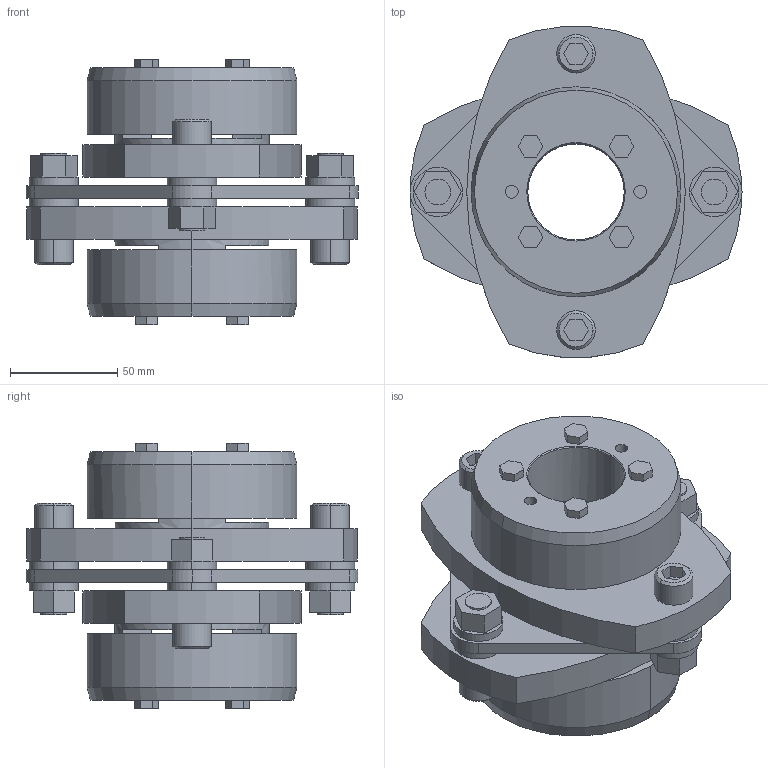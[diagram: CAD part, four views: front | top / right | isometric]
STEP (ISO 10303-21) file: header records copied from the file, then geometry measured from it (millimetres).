
FILE_DESCRIPTION((''),'2;1');
FILE_NAME('LCS-155T7-45×45.stp','2011-09-08T10:39:23',(''),(''),'AutoCAD STEP 2000i','AutoCAD 2000i',', , ');
FILE_SCHEMA(('CONFIG_CONTROL_DESIGN'));
Length unit declared in the file: millimetre
Products named in the file (5): LCS-155T7-45×45; 忣兜1; LC155T7-T045-1; LC155T7-T045; LCS155-ITA
Assembly tree (4 placements, depth 2):
  LCS-155T7-45×45
    忣兜1
    LC155T7-T045-1
    LC155T7-T045
    LCS155-ITA
Bounding box: 155 x 154.9 x 124 mm (x, y, z)
Volume: 835273.4 mm3; surface area: 145905.4 mm2
Topology: 1 solids, 1 shells, 246 faces, 606 edges, 398 vertices
Faces by surface type: plane 146, cylinder 80, cone 20
Entity records: 7471 total; most frequent: DIRECTION 1306, CARTESIAN_POINT 1255, ORIENTED_EDGE 1212, EDGE_CURVE 606, AXIS2_PLACEMENT_3D 449, VECTOR 408, LINE 408, VERTEX_POINT 398
